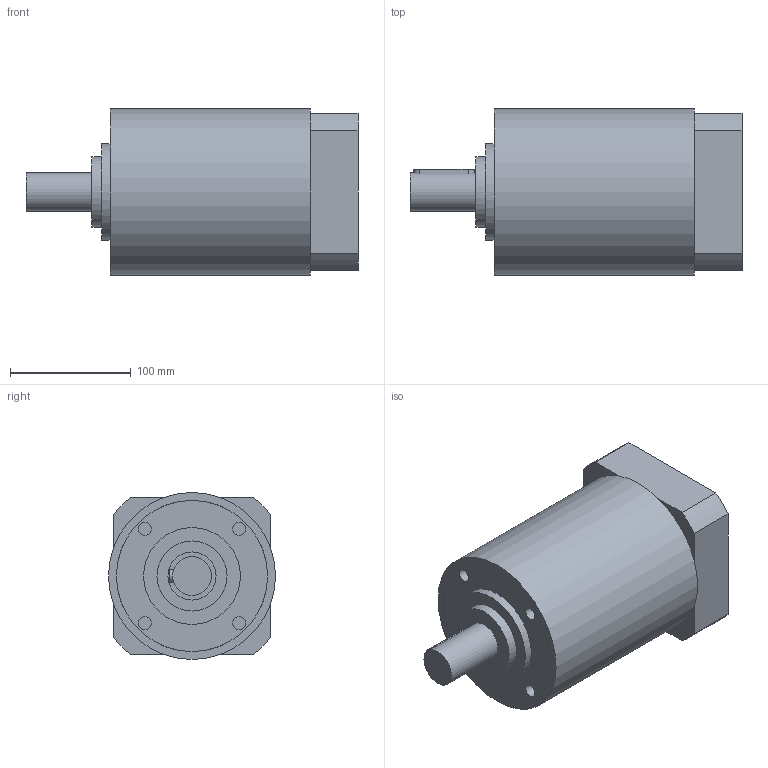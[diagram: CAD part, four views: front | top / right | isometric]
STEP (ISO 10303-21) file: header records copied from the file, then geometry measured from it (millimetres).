
FILE_DESCRIPTION(/* description */ (''),/* implementation_level */ '2;1');
FILE_NAME(/* name */ 'E0001806MP080708171903',/* time_stamp */ '2008-07-08T17:20:11+02:00',/* author */ (''),/* organization */ (''),/* preprocessor_version */ 'ST-DEVELOPER v9',/* originating_system */ 'EDS PLM SOLUTIONS - UNIGRAPHICS NX 2.0',/* authorisation */ '');
FILE_SCHEMA (('CONFIG_CONTROL_DESIGN'));
Length unit declared in the file: millimetre
Products named in the file (1): E0001806MP080708171903_u3d
Bounding box: 274.5 x 138 x 138 mm (x, y, z)
Volume: 3816655.2 mm3; surface area: 293885.3 mm2
Topology: 9 solids, 9 shells, 101 faces, 211 edges, 140 vertices
Faces by surface type: plane 46, cylinder 41, cone 12, torus 2
Full cylindrical faces by diameter (mm): 5.188 x1, 6.2 x1, 6.985 x5, 8.5 x1, 10.5 x1, 10.579 x4, 17.75 x1, 24 x1, 28 x1, 32 x1, 35 x1, 39.732 x1, 56 x1, 58 x1, 80 x1, 95 x1, 108.9 x1, 112.95 x1, 113 x1, 120.9 x1, 124.935 x1, 124.95 x1, 125 x1, 138 x1
Entity records: 2480 total; most frequent: CARTESIAN_POINT 443, DIRECTION 432, ORIENTED_EDGE 292, AXIS2_PLACEMENT_3D 187, EDGE_LOOP 164, EDGE_CURVE 146, VERTEX_POINT 124, FACE_BOUND 104
